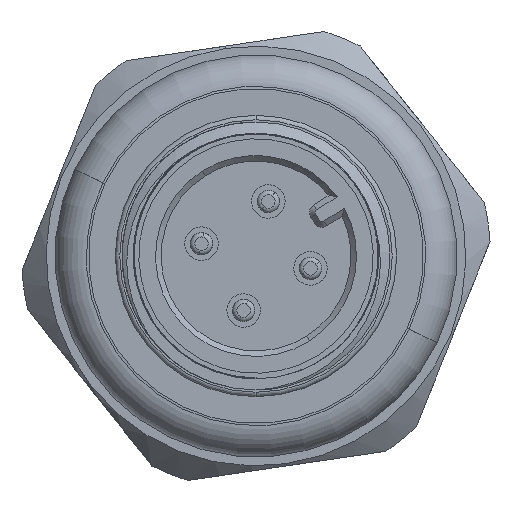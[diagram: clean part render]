
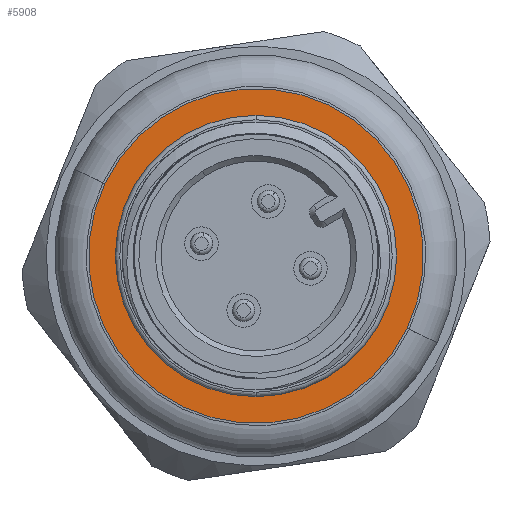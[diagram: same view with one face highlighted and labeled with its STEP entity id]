
A CAD part, left-side view. The second image highlights one B-rep face of the part: STEP entity #5908.
In plain terms, the highlighted planar face has unit normal (-1, 0, 0) as drawn and (0, 1, 0) by its records, which use the part's own axes.
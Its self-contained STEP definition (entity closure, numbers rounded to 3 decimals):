
#38 = ORIENTED_EDGE ( 'NONE', *, *, #10949, .F. ) ;
#49 = CARTESIAN_POINT ( 'NONE',  ( 0., 38.6, -6. ) ) ;
#199 = DIRECTION ( 'NONE',  ( 0., 1., 0. ) ) ;
#352 = AXIS2_PLACEMENT_3D ( 'NONE', #3564, #4239, #2760 ) ;
#423 = DIRECTION ( 'NONE',  ( 1., 0., 0. ) ) ;
#568 = EDGE_LOOP ( 'NONE', ( #8196, #8152 ) ) ;
#582 = EDGE_CURVE ( 'NONE', #1893, #8755, #5437, .T. ) ;
#628 = CARTESIAN_POINT ( 'NONE',  ( 0., 38.6, -7.5 ) ) ;
#701 = CARTESIAN_POINT ( 'NONE',  ( 0., 38.6, 0. ) ) ;
#1893 = VERTEX_POINT ( 'NONE', #49 ) ;
#1907 = EDGE_LOOP ( 'NONE', ( #38, #9146 ) ) ;
#2175 = CIRCLE ( 'NONE', #352, 7.5 ) ;
#2625 = DIRECTION ( 'NONE',  ( 0., -1., 0. ) ) ;
#2760 = DIRECTION ( 'NONE',  ( 0., 0., -1. ) ) ;
#2806 = CARTESIAN_POINT ( 'NONE',  ( 0., 38.6, 0. ) ) ;
#2868 = FACE_BOUND ( 'NONE', #568, .T. ) ;
#3387 = AXIS2_PLACEMENT_3D ( 'NONE', #9050, #6453, #9157 ) ;
#3564 = CARTESIAN_POINT ( 'NONE',  ( 0., 38.6, 0. ) ) ;
#4124 = AXIS2_PLACEMENT_3D ( 'NONE', #2806, #10588, #5348 ) ;
#4239 = DIRECTION ( 'NONE',  ( 0., -1., 0. ) ) ;
#5109 = VERTEX_POINT ( 'NONE', #628 ) ;
#5225 = AXIS2_PLACEMENT_3D ( 'NONE', #8856, #199, #423 ) ;
#5348 = DIRECTION ( 'NONE',  ( 0., 0., -1. ) ) ;
#5437 = CIRCLE ( 'NONE', #3387, 6. ) ;
#5584 = FACE_OUTER_BOUND ( 'NONE', #1907, .T. ) ;
#5908 = ADVANCED_FACE ( 'NONE', ( #2868, #5584 ), #7958, .T. ) ;
#6040 = EDGE_CURVE ( 'NONE', #9757, #5109, #2175, .T. ) ;
#6453 = DIRECTION ( 'NONE',  ( 0., -1., 0. ) ) ;
#6802 = CIRCLE ( 'NONE', #4124, 6. ) ;
#7281 = CIRCLE ( 'NONE', #9260, 7.5 ) ;
#7958 = PLANE ( 'NONE',  #5225 ) ;
#8152 = ORIENTED_EDGE ( 'NONE', *, *, #10442, .T. ) ;
#8196 = ORIENTED_EDGE ( 'NONE', *, *, #582, .T. ) ;
#8755 = VERTEX_POINT ( 'NONE', #10787 ) ;
#8856 = CARTESIAN_POINT ( 'NONE',  ( 0., 38.6, -7.5 ) ) ;
#9050 = CARTESIAN_POINT ( 'NONE',  ( 0., 38.6, 0. ) ) ;
#9146 = ORIENTED_EDGE ( 'NONE', *, *, #6040, .F. ) ;
#9157 = DIRECTION ( 'NONE',  ( 0., 0., -1. ) ) ;
#9260 = AXIS2_PLACEMENT_3D ( 'NONE', #701, #2625, #9501 ) ;
#9501 = DIRECTION ( 'NONE',  ( 0., 0., -1. ) ) ;
#9757 = VERTEX_POINT ( 'NONE', #10052 ) ;
#10052 = CARTESIAN_POINT ( 'NONE',  ( 0., 38.6, 7.5 ) ) ;
#10442 = EDGE_CURVE ( 'NONE', #8755, #1893, #6802, .T. ) ;
#10588 = DIRECTION ( 'NONE',  ( 0., -1., 0. ) ) ;
#10787 = CARTESIAN_POINT ( 'NONE',  ( 0., 38.6, 6. ) ) ;
#10949 = EDGE_CURVE ( 'NONE', #5109, #9757, #7281, .T. ) ;
